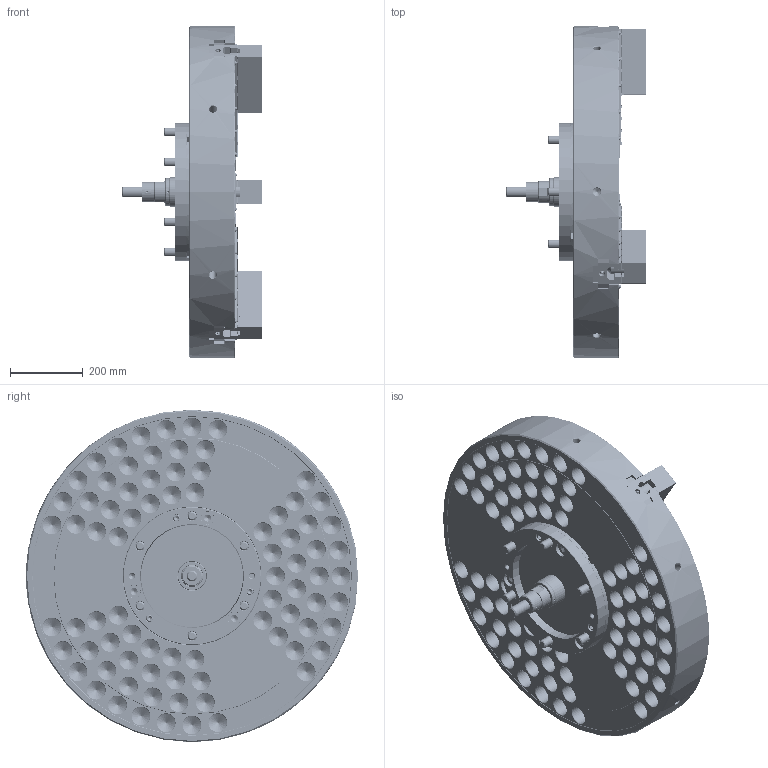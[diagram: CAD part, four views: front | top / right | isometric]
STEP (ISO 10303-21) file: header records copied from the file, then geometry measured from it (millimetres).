
FILE_DESCRIPTION (( 'STEP AP214' ), '1' );
FILE_NAME ('DT1_NV36C15_OUTSIDE_VIEW_OC.STEP', '2026-03-24T06:38:02', ( '' ), ( '' ), 'SwSTEP 2.0', 'SolidWorks 2022', '' );
FILE_SCHEMA (( 'AUTOMOTIVE_DESIGN' ));
Length unit declared in the file: millimetre
Products named in the file (18): DT1_NV36C15_M24x160^DT1_NV36C1500; DT1_NV36C15_P80^DT1_NV36C1500_円筒用; DT1_NV36C15_M20x60^DT1_NV36C1500; DT1_NV36C15_BASE^DT1_NV36C1500; DT1_NV36C15_OUTSIDE_VIEW_OC; DT1_NV36C15_ORING^DT1_NV36C1500; DT1_NV36C15_DN^DT1_NV36C1500; DT1_NV36C15_TNUT^DT1_NV36C1500; DT1_NV36C15_M6x12^DT1_NV36C1500; DT1_NV36C15_BP^DT1_NV36C1500; DT1_NV36C15_SOFTJAW^DT1_NV36C1500; Copy of 0030112055^DT1_NV36C1500; DT1_NV36C15_CAP^DT1_NV36C1500; DT1_NV36C15_COVER^DT1_NV36C1500; Copy of 61P321208^DT1_NV36C1500; DT1_NV36C15_S39^DT1_NV36C1500_円筒用; DT1_NV36C15_COVERFOOTER^DT1_NV36C1500; DT1_NV36C15_DRAWSCREW^DT1_NV36C1500
Assembly tree (48 placements, depth 2):
  DT1_NV36C15_OUTSIDE_VIEW_OC
    DT1_NV36C15_SOFTJAW^DT1_NV36C1500  x3
    DT1_NV36C15_TNUT^DT1_NV36C1500  x6
    DT1_NV36C15_COVER^DT1_NV36C1500
    DT1_NV36C15_DRAWSCREW^DT1_NV36C1500
    Copy of 61P321208^DT1_NV36C1500
    DT1_NV36C15_COVERFOOTER^DT1_NV36C1500
    DT1_NV36C15_M6x12^DT1_NV36C1500  x6
    Copy of 0030112055^DT1_NV36C1500  x3
    DT1_NV36C15_M20x60^DT1_NV36C1500  x6
    DT1_NV36C15_M24x160^DT1_NV36C1500  x6
    DT1_NV36C15_S39^DT1_NV36C1500_円筒用
    DT1_NV36C15_P80^DT1_NV36C1500_円筒用
    DT1_NV36C15_CAP^DT1_NV36C1500  x6
    DT1_NV36C15_ORING^DT1_NV36C1500  x3
    DT1_NV36C15_DN^DT1_NV36C1500
    DT1_NV36C15_BP^DT1_NV36C1500
    DT1_NV36C15_BASE^DT1_NV36C1500
Bounding box: 387 x 914 x 914 mm (x, y, z)
Volume: 78204324.3 mm3; surface area: 3933451.6 mm2
Topology: 48 solids, 132 shells, 12314 faces, 34349 edges, 22317 vertices
Faces by surface type: plane 7319, cylinder 2475, cone 1308, bspline 1046, torus 160, sphere 6
Entity records: 360500 total; most frequent: CARTESIAN_POINT 106052, ORIENTED_EDGE 56522, DIRECTION 46743, EDGE_CURVE 28261, VECTOR 20285, LINE 20285, VERTEX_POINT 18571, AXIS2_PLACEMENT_3D 13229
